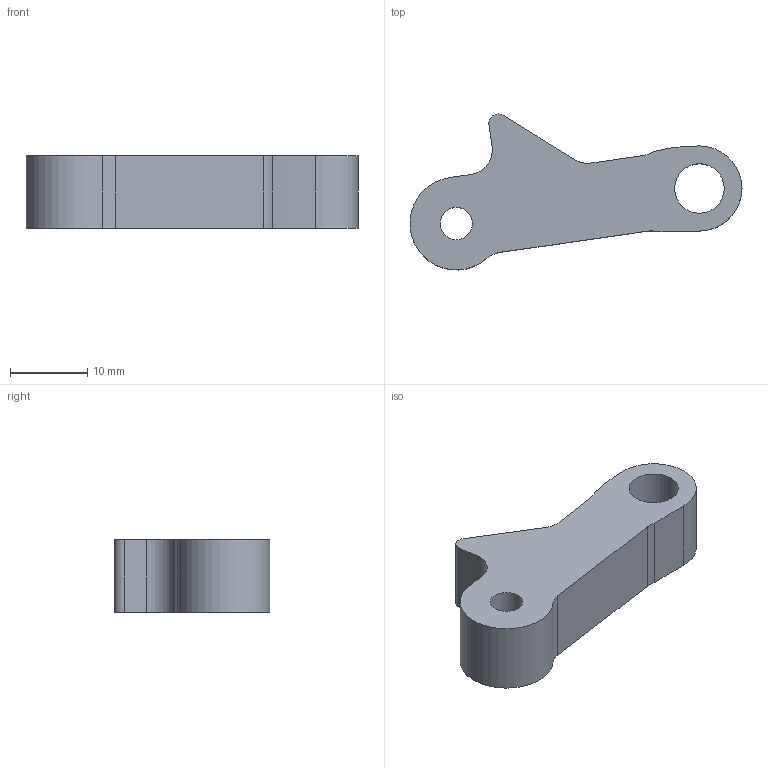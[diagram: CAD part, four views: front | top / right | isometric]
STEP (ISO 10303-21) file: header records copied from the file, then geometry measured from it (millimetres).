
FILE_DESCRIPTION(('sldprt2step conversion of Parasolid XT B-rep'),'2;1');
FILE_NAME('2F membrure.SLDPRT','',(''),(''),'sldprt2step','','');
FILE_SCHEMA(('AUTOMOTIVE_DESIGN { 1 0 10303 214 1 1 1 1 }'));
Length unit declared in the file: millimetre
Products named in the file (1): 2F membrure
Bounding box: 42.91 x 20.15 x 9.4 mm (x, y, z)
Volume: 4098.3 mm3; surface area: 2202.2 mm2
Topology: 1 solids, 1 shells, 19 faces, 52 edges, 35 vertices
Faces by surface type: cylinder 12, plane 7
Full cylindrical faces by diameter (mm): 4.2 x1, 6.4 x1
Entity records: 616 total; most frequent: DIRECTION 113, CARTESIAN_POINT 103, ORIENTED_EDGE 98, EDGE_CURVE 49, AXIS2_PLACEMENT_3D 44, VERTEX_POINT 34, EDGE_LOOP 25, VECTOR 25
